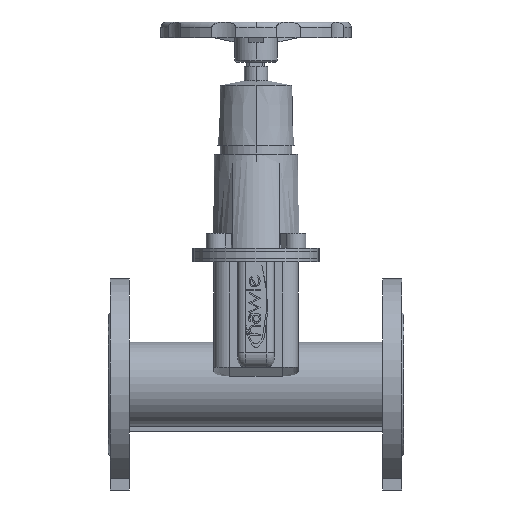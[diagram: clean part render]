
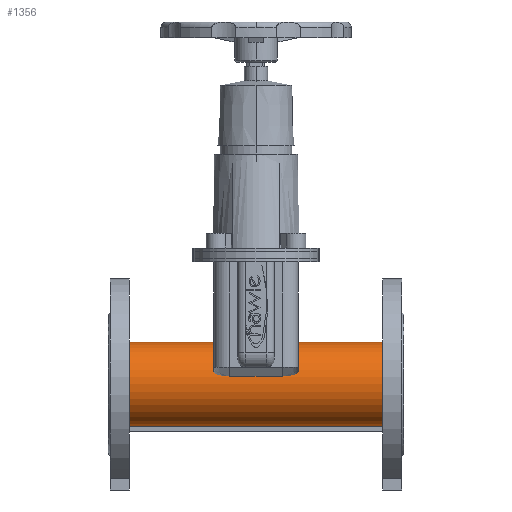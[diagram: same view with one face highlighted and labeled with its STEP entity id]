
A CAD part, front view. The second image highlights one B-rep face of the part: STEP entity #1356.
In plain terms, the highlighted cylindrical face has radius 40 mm (diameter 80 mm), a partial arc.
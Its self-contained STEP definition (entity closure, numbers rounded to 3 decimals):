
#1356=ADVANCED_FACE('',(#2758),#2759,.T.);
#2758=FACE_OUTER_BOUND('',#4659,.T.);
#2759=CYLINDRICAL_SURFACE('',#4660,40.0);
#4659=EDGE_LOOP('',(#7315,#7316,#7317,#7318));
#4660=AXIS2_PLACEMENT_3D('',#7319,#7320,#7321);
#7315=ORIENTED_EDGE('',*,*,#10982,.F.);
#7316=ORIENTED_EDGE('',*,*,#10642,.T.);
#7317=ORIENTED_EDGE('',*,*,#10983,.F.);
#7318=ORIENTED_EDGE('',*,*,#10984,.T.);
#7319=CARTESIAN_POINT('',(260.0,0.0,0.));
#7320=DIRECTION('',(-1.0,0.0,0.));
#7321=DIRECTION('',(0.,0.0,-1.0));
#10642=EDGE_CURVE('',#12699,#12700,#12701,.T.);
#10982=EDGE_CURVE('',#12699,#13221,#13222,.T.);
#10983=EDGE_CURVE('',#13223,#12700,#13224,.T.);
#10984=EDGE_CURVE('',#13223,#13221,#13225,.T.);
#12699=VERTEX_POINT('',#15464);
#12700=VERTEX_POINT('',#15465);
#12701=CIRCLE('',#15466,40.0);
#13221=VERTEX_POINT('',#16329);
#13222=LINE('',#16330,#16331);
#13223=VERTEX_POINT('',#16332);
#13224=LINE('',#16333,#16334);
#13225=CIRCLE('',#16335,40.0);
#15464=CARTESIAN_POINT('',(260.0,0.0,-40.0));
#15465=CARTESIAN_POINT('',(260.0,0.,40.0));
#15466=AXIS2_PLACEMENT_3D('',#18422,#18423,#18424);
#16329=CARTESIAN_POINT('',(20.0,0.0,-40.0));
#16330=CARTESIAN_POINT('',(260.0,0.,-40.0));
#16331=VECTOR('',#18856,1.0);
#16332=CARTESIAN_POINT('',(20.0,0.,40.0));
#16333=CARTESIAN_POINT('',(260.0,0.,40.0));
#16334=VECTOR('',#18857,1.0);
#16335=AXIS2_PLACEMENT_3D('',#18858,#18859,#18860);
#18422=CARTESIAN_POINT('',(260.0,0.0,0.));
#18423=DIRECTION('',(-1.0,0.0,0.));
#18424=DIRECTION('',(0.,0.0,-1.0));
#18856=DIRECTION('',(-1.0,0.0,0.));
#18857=DIRECTION('',(1.0,-0.0,0.));
#18858=CARTESIAN_POINT('',(20.0,0.0,0.));
#18859=DIRECTION('',(1.0,0.0,0.));
#18860=DIRECTION('',(0.,0.0,-1.0));
